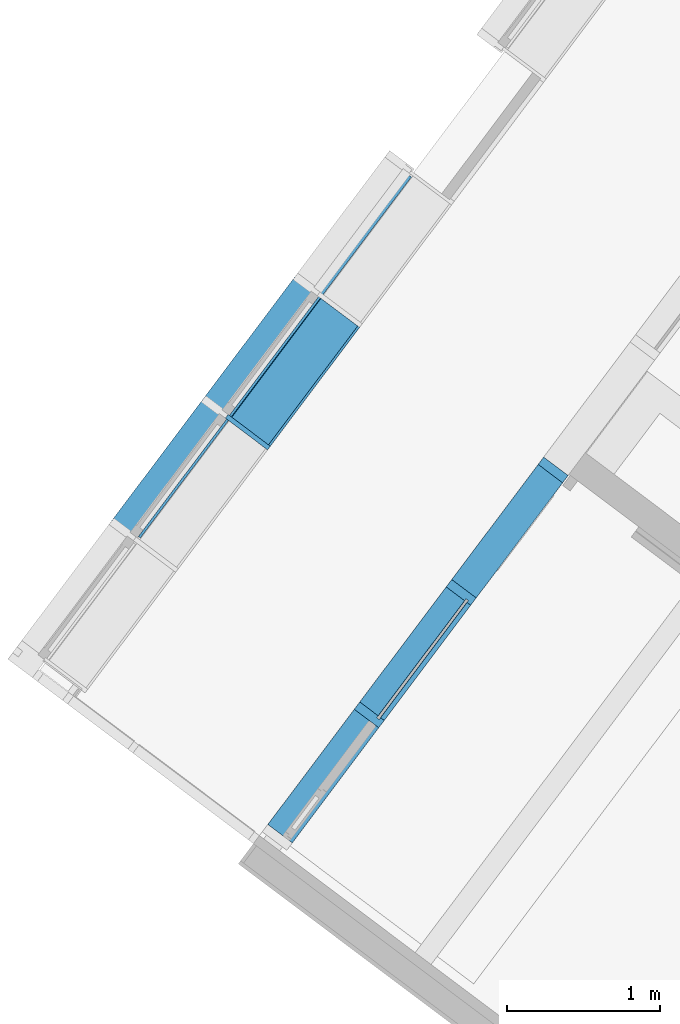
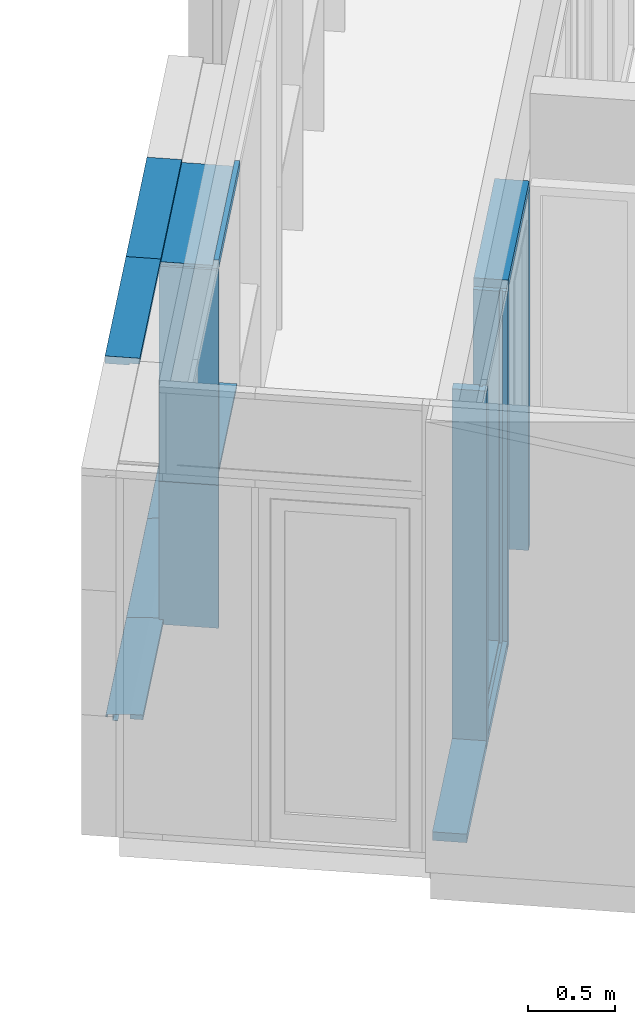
# One storey, part 4 of 243: 15 members, 3 elements without a shape of their own.
"""IFC2X3 building model written with IfcOpenShell, lengths in metres."""

from ifc_helpers import new_model, entity, si_unit, converted_unit, derived_unit, direction, frame, frame_2d, origin, place, context, subcontext, project, spatial, polyline, circle_curve, parameter, trimmed, segment, composite_curve, rectangle, outline, extrude, source, transform, mapped, material, type_object, type_shapes, element, aggregate, save


model = new_model("IFC2X3")

# Units and contexts
model_context = context("Model", 3, precision=1e-05, world=origin(), true_north=direction((6.123031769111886e-17, 1.0)))
body_context = subcontext(model_context, "Body", "Model", "MODEL_VIEW")
ifc_project = project(units=[si_unit("LENGTHUNIT", "METRE"), si_unit("AREAUNIT", "SQUARE_METRE"), si_unit("VOLUMEUNIT", "CUBIC_METRE"), converted_unit("PLANEANGLEUNIT", "DEGREE", entity("IfcRatioMeasure", 0.017453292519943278), si_unit("PLANEANGLEUNIT", "RADIAN"), dimensions=[0, 0, 0, 0, 0, 0, 0]), si_unit("MASSUNIT", "GRAM", prefix="KILO"), derived_unit("MASSDENSITYUNIT", [(si_unit("MASSUNIT", "GRAM", prefix="KILO"), 1), (si_unit("LENGTHUNIT", "METRE"), -3)]), derived_unit("IONCONCENTRATIONUNIT", [(si_unit("MASSUNIT", "GRAM", prefix="KILO"), 1), (si_unit("LENGTHUNIT", "METRE"), -3)]), derived_unit("MOMENTOFINERTIAUNIT", [(si_unit("LENGTHUNIT", "METRE"), 4)]), si_unit("TIMEUNIT", "SECOND"), si_unit("FREQUENCYUNIT", "HERTZ"), si_unit("THERMODYNAMICTEMPERATUREUNIT", "DEGREE_CELSIUS"), derived_unit("THERMALTRANSMITTANCEUNIT", [(si_unit("MASSUNIT", "GRAM", prefix="KILO"), 1), (si_unit("THERMODYNAMICTEMPERATUREUNIT", "KELVIN"), -1), (si_unit("TIMEUNIT", "SECOND"), -3)]), derived_unit("THERMALCONDUCTANCEUNIT", [(si_unit("MASSUNIT", "GRAM", prefix="KILO"), 1), (si_unit("THERMODYNAMICTEMPERATUREUNIT", "KELVIN"), -1), (si_unit("TIMEUNIT", "SECOND"), -3), (si_unit("LENGTHUNIT", "METRE"), 1)]), derived_unit("VOLUMETRICFLOWRATEUNIT", [(si_unit("LENGTHUNIT", "METRE"), 3), (si_unit("TIMEUNIT", "SECOND"), -1)]), derived_unit("MASSFLOWRATEUNIT", [(si_unit("MASSUNIT", "GRAM", prefix="KILO"), 1), (si_unit("TIMEUNIT", "SECOND"), -1)]), derived_unit("ROTATIONALFREQUENCYUNIT", [(si_unit("TIMEUNIT", "SECOND"), -1)]), si_unit("ELECTRICCURRENTUNIT", "AMPERE"), si_unit("ELECTRICVOLTAGEUNIT", "VOLT"), si_unit("POWERUNIT", "WATT"), si_unit("FORCEUNIT", "NEWTON", prefix="KILO"), si_unit("ILLUMINANCEUNIT", "LUX"), si_unit("LUMINOUSFLUXUNIT", "LUMEN"), si_unit("LUMINOUSINTENSITYUNIT", "CANDELA"), derived_unit("USERDEFINED", [(si_unit("MASSUNIT", "GRAM", prefix="KILO"), -1), (si_unit("LENGTHUNIT", "METRE"), -2), (si_unit("TIMEUNIT", "SECOND"), 3), (si_unit("LUMINOUSFLUXUNIT", "LUMEN"), 1)]), derived_unit("USERDEFINED", [(si_unit("MASSUNIT", "GRAM", prefix="KILO"), 1), (si_unit("TIMEUNIT", "SECOND"), -3), (si_unit("LENGTHUNIT", "METRE"), 3), (si_unit("ELECTRICCURRENTUNIT", "AMPERE"), -2)]), derived_unit("SOUNDPOWERUNIT", [(si_unit("MASSUNIT", "GRAM", prefix="KILO"), 1), (si_unit("TIMEUNIT", "SECOND"), -3), (si_unit("LENGTHUNIT", "METRE"), 2)]), derived_unit("SOUNDPRESSUREUNIT", [(si_unit("MASSUNIT", "GRAM", prefix="KILO"), 1), (si_unit("LENGTHUNIT", "METRE"), -1), (si_unit("TIMEUNIT", "SECOND"), -2)]), derived_unit("LINEARVELOCITYUNIT", [(si_unit("LENGTHUNIT", "METRE"), 1), (si_unit("TIMEUNIT", "SECOND"), -1)]), si_unit("PRESSUREUNIT", "PASCAL"), derived_unit("USERDEFINED", [(si_unit("MASSUNIT", "GRAM", prefix="KILO"), 1), (si_unit("LENGTHUNIT", "METRE"), -2), (si_unit("TIMEUNIT", "SECOND"), -2)]), derived_unit("LINEARFORCEUNIT", [(si_unit("MASSUNIT", "GRAM", prefix="KILO"), 1), (si_unit("TIMEUNIT", "SECOND"), -2)]), derived_unit("PLANARFORCEUNIT", [(si_unit("MASSUNIT", "GRAM", prefix="KILO"), 1), (si_unit("LENGTHUNIT", "METRE"), -1), (si_unit("TIMEUNIT", "SECOND"), -2)]), derived_unit("SPECIFICHEATCAPACITYUNIT", [(si_unit("THERMODYNAMICTEMPERATUREUNIT", "KELVIN"), -1), (si_unit("LENGTHUNIT", "METRE"), 2), (si_unit("TIMEUNIT", "SECOND"), -2)]), derived_unit("HEATINGVALUEUNIT", [(si_unit("LENGTHUNIT", "METRE"), 2), (si_unit("TIMEUNIT", "SECOND"), -2)]), derived_unit("VAPORPERMEABILITYUNIT", [(si_unit("LENGTHUNIT", "METRE"), -1), (si_unit("TIMEUNIT", "SECOND"), 1)]), derived_unit("DYNAMICVISCOSITYUNIT", [(si_unit("MASSUNIT", "GRAM", prefix="KILO"), 1), (si_unit("TIMEUNIT", "SECOND"), -1), (si_unit("LENGTHUNIT", "METRE"), -1)]), derived_unit("THERMALEXPANSIONCOEFFICIENTUNIT", [(si_unit("THERMODYNAMICTEMPERATUREUNIT", "KELVIN"), -1)]), derived_unit("MODULUSOFELASTICITYUNIT", [(si_unit("MASSUNIT", "GRAM", prefix="KILO"), 1), (si_unit("LENGTHUNIT", "METRE"), -1), (si_unit("TIMEUNIT", "SECOND"), -2)]), derived_unit("ISOTHERMALMOISTURECAPACITYUNIT", [(si_unit("LENGTHUNIT", "METRE"), 3), (si_unit("MASSUNIT", "GRAM", prefix="KILO"), -1)]), derived_unit("MOISTUREDIFFUSIVITYUNIT", [(si_unit("TIMEUNIT", "SECOND"), -1), (si_unit("LENGTHUNIT", "METRE"), 2)])], contexts=[model_context])

# Site, building, storey
site_placement = place(None, frame((0.0, 0.0, 235.0), z_axis=(0.0, 0.0, 1.0), x_axis=(-0.7996477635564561, 0.6004693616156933, 0.0)))
site = spatial("IfcSite", under=ifc_project, at=site_placement, Name="Default", CompositionType="ELEMENT")
building_placement = place(site_placement, origin())
building = spatial("IfcBuilding", under=site, at=building_placement, CompositionType="ELEMENT")
storey_placement = place(building_placement, origin())
storey = spatial("IfcBuildingStorey", under=building, at=storey_placement, Name="P0- Escola", CompositionType="ELEMENT", Elevation=0.0)

# Curtain wall, members
curtain_wall_type_1 = type_object("IfcCurtainWallType", Name="Muro cortina:MC- INT- a1", PredefinedType="NOTDEFINED")
curtain_wall_1_placement = place(storey_placement, origin())
curtain_wall_1 = element("IfcCurtainWall", 1, at=curtain_wall_1_placement, inside=storey, type_object=curtain_wall_type_1, Name="Muro cortina:MC- INT- a1", ObjectType="Muro cortina:MC- INT- a1")
ifc_material_1 = material(Name="_Fusta massisa- T1")
member_type_1 = type_object("IfcMemberType", Name="Montante rectangular:MC- Fusta- 20x6 cm- Esquerra", PredefinedType="MULLION", material=ifc_material_1)
shared_shape_1 = source(origin(), body_context, "Body", "SweptSolid", [
    extrude(outline(polyline([(-0.07000000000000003, -0.01875000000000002), (-0.04000000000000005, -0.01875000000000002), (-0.04000000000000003, -0.0037500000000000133), (-0.020000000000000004, -0.0037500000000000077), (-0.02, -0.018750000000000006), (0.13, -0.018749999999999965), (0.12999999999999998, 0.04125000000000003), (-0.06999999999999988, 0.04124999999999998), (-0.07000000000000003, -0.01875000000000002)])), frame((-0.01124999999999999, -0.03, -2.5050000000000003), z_axis=(0.0, 0.0, 1.0), x_axis=(0.0, -1.0, 0.0)), (0.0, 0.0, 1.0), 2.5050000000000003),
])
type_shapes(member_type_1, [shared_shape_1])
member_1_placement = place(curtain_wall_1_placement, frame((47.32014768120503, -22.41518997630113, 0.0), z_axis=(0.0, 0.0, -1.0), x_axis=(0.0, -1.0, 0.0)))
member_1 = element("IfcMember", 2, at=member_1_placement, type_object=member_type_1, material=ifc_material_1, Name="Montante rectangular:MC- Fusta- 20x6 cm- Esquerra", ObjectType="Montante rectangular:MC- Fusta- 20x6 cm- Esquerra", context=body_context, shape_type="MappedRepresentation", body=[
    mapped(shared_shape_1, transform((0.0, 0.0, 0.0), scale=1.0)),
])
member_type_2 = type_object("IfcMemberType", Name="Montante rectangular:MC- Fusta- 20x6 cm- Dreta", PredefinedType="MULLION", material=ifc_material_1)
shared_shape_2 = source(origin(), body_context, "Body", "SweptSolid", [
    extrude(outline(polyline([(-0.07000000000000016, -0.041249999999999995), (0.13000000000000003, -0.041249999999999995), (0.13000000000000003, 0.01875), (-0.019999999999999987, 0.01875), (-0.019999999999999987, 0.00375), (-0.04000000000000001, 0.00375), (-0.03999999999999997, 0.01875), (-0.06999999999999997, 0.01875), (-0.07000000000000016, -0.041249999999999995)])), frame((0.011250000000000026, -0.02999999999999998, -2.5050000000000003), z_axis=(0.0, 0.0, 1.0), x_axis=(0.0, -1.0, 0.0)), (0.0, 0.0, 1.0), 2.5050000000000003),
])
type_shapes(member_type_2, [shared_shape_2])
member_2_placement = place(curtain_wall_1_placement, frame((47.32014768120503, -21.415189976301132, 0.0), z_axis=(0.0, 0.0, -1.0), x_axis=(0.0, -1.0, 0.0)))
member_2 = element("IfcMember", 3, at=member_2_placement, type_object=member_type_2, material=ifc_material_1, Name="Montante rectangular:MC- Fusta- 20x6 cm- Dreta", ObjectType="Montante rectangular:MC- Fusta- 20x6 cm- Dreta", context=body_context, shape_type="MappedRepresentation", body=[
    mapped(shared_shape_2, transform((0.0, 0.0, 0.0), scale=1.0)),
])
member_type_3 = type_object("IfcMemberType", Name="Montante rectangular:MC- Fusta- 20x6 cm- Neutre", PredefinedType="MULLION", material=ifc_material_1)
shared_shape_3 = source(origin(), body_context, "Body", "SweptSolid", [
    extrude(rectangle(XDim=0.2, YDim=0.060000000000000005, at=frame_2d((-4.85722573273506e-17, -3.469446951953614e-18), x_axis=(1.0, 0.0))), frame((-0.03, -0.060000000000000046, -1.0), z_axis=(0.0, 0.0, 1.0), x_axis=(0.0, -1.0, 0.0)), (0.0, 0.0, 1.0), 0.9999999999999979),
])
type_shapes(member_type_3, [shared_shape_3])
member_3_placement = place(curtain_wall_1_placement, frame((47.320147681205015, -23.415189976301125, 2.565), z_axis=(0.0, -1.0, 0.0), x_axis=(0.0, 0.0, 1.0)))
member_3 = element("IfcMember", 4, at=member_3_placement, type_object=member_type_3, material=ifc_material_1, Name="Montante rectangular:MC- Fusta- 20x6 cm- Neutre", ObjectType="Montante rectangular:MC- Fusta- 20x6 cm- Neutre", context=body_context, shape_type="MappedRepresentation", body=[
    mapped(shared_shape_3, transform((0.0, 0.0, 0.0), scale=1.0)),
])
member_type_4 = type_object("IfcMemberType", Name="Montante rectangular:MC- Fusta- 20x6 cm- Neutre", PredefinedType="MULLION", material=ifc_material_1)
shared_shape_4 = source(origin(), body_context, "Body", "SweptSolid", [
    extrude(rectangle(XDim=0.2, YDim=0.06, at=frame_2d((-4.85722573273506e-17, 0.0), x_axis=(1.0, 0.0))), frame((0.0, -0.060000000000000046, -2.5050000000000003), z_axis=(0.0, 0.0, 1.0), x_axis=(0.0, -1.0, 0.0)), (0.0, 0.0, 1.0), 2.5050000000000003),
])
type_shapes(member_type_4, [shared_shape_4])
member_4_placement = place(curtain_wall_1_placement, frame((47.320147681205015, -23.415189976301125, 0.0), z_axis=(0.0, 0.0, -1.0), x_axis=(0.0, -1.0, 0.0)))
member_4 = element("IfcMember", 5, at=member_4_placement, type_object=member_type_4, material=ifc_material_1, Name="Montante rectangular:MC- Fusta- 20x6 cm- Neutre", ObjectType="Montante rectangular:MC- Fusta- 20x6 cm- Neutre", context=body_context, shape_type="MappedRepresentation", body=[
    mapped(shared_shape_4, transform((0.0, 0.0, 0.0), scale=1.0)),
])
member_type_5 = type_object("IfcMemberType", Name="Montante rectangular:MC- Fusta- 20x6 cm- Neutre", PredefinedType="MULLION", material=ifc_material_1)
shared_shape_5 = source(origin(), body_context, "Body", "SweptSolid", [
    extrude(rectangle(XDim=0.19999999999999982, YDim=0.06, at=frame_2d((5.551115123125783e-17, 0.0), x_axis=(1.0, 0.0))), frame((-0.03, -0.060000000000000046, -0.9399982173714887), z_axis=(0.0, 0.0, 1.0), x_axis=(0.0, -1.0, 0.0)), (0.0, 0.0, 1.0), 0.9399982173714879),
])
type_shapes(member_type_5, [shared_shape_5])
member_5_placement = place(curtain_wall_1_placement, frame((47.32014768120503, -20.445191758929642, 0.0), z_axis=(0.0, 1.0, 0.0), x_axis=(0.0, 0.0, -1.0)))
member_5 = element("IfcMember", 6, at=member_5_placement, type_object=member_type_5, material=ifc_material_1, Name="Montante rectangular:MC- Fusta- 20x6 cm- Neutre", ObjectType="Montante rectangular:MC- Fusta- 20x6 cm- Neutre", context=body_context, shape_type="MappedRepresentation", body=[
    mapped(shared_shape_5, transform((0.0, 0.0, 0.0), scale=1.0)),
])
member_type_6 = type_object("IfcMemberType", Name="Montante rectangular:MC- Fusta- 20x6 cm- Inferior", PredefinedType="MULLION", material=ifc_material_1)
shared_shape_6 = source(origin(), body_context, "Body", "SweptSolid", [
    extrude(outline(polyline([(-0.06999999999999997, -0.018750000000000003), (-0.039999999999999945, -0.018750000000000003), (-0.03999999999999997, -0.003750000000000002), (-0.019999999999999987, -0.0037500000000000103), (-0.019999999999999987, -0.018750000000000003), (0.13000000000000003, -0.018750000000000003), (0.13000000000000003, 0.041249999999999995), (-0.07000000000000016, 0.041249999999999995), (-0.06999999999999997, -0.018750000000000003)])), frame((-0.041249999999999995, -0.02999999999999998, -0.9399999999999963), z_axis=(0.0, 0.0, 1.0), x_axis=(0.0, -1.0, 0.0)), (0.0, 0.0, 1.0), 0.9399999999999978),
])
type_shapes(member_type_6, [shared_shape_6])
member_6_placement = place(curtain_wall_1_placement, frame((47.32014768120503, -21.445189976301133, 0.0), z_axis=(0.0, 1.0, 0.0), x_axis=(0.0, 0.0, -1.0)))
member_6 = element("IfcMember", 7, at=member_6_placement, type_object=member_type_6, material=ifc_material_1, Name="Montante rectangular:MC- Fusta- 20x6 cm- Inferior", ObjectType="Montante rectangular:MC- Fusta- 20x6 cm- Inferior", context=body_context, shape_type="MappedRepresentation", body=[
    mapped(shared_shape_6, transform((0.0, 0.0, 0.0), scale=1.0)),
])
aggregate(curtain_wall_1, [member_3, member_4, member_1, member_2, member_5, member_6])

curtain_wall_type_2 = type_object("IfcCurtainWallType", Name="Muro cortina:MC- INT- k2", PredefinedType="NOTDEFINED")
curtain_wall_2_placement = place(storey_placement, origin())
curtain_wall_2 = element("IfcCurtainWall", 8, at=curtain_wall_2_placement, inside=storey, type_object=curtain_wall_type_2, Name="Muro cortina:MC- INT- k2", ObjectType="Muro cortina:MC- INT- k2")
member_type_7 = type_object("IfcMemberType", Name="Montante rectangular:MC- Fusta- 35x3 cm- Centre", PredefinedType="MULLION", material=ifc_material_1)
shared_shape_7 = source(origin(), body_context, "Body", "SweptSolid", [
    extrude(rectangle(XDim=0.3450000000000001, YDim=0.030000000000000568, at=frame_2d((0.0, -1.3964523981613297e-16), x_axis=(1.0, 0.0))), frame((0.0, -0.07750000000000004, -1.0), z_axis=(0.0, 0.0, 1.0), x_axis=(0.0, -1.0, 0.0)), (0.0, 0.0, 1.0), 1.0),
])
type_shapes(member_type_7, [shared_shape_7])
member_7_placement = place(curtain_wall_2_placement, frame((49.045147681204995, -22.41519175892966, 0.0), z_axis=(0.0, 0.0, -1.0), x_axis=(0.0, -1.0, 0.0)))
member_7 = element("IfcMember", 9, at=member_7_placement, type_object=member_type_7, material=ifc_material_1, Name="Montante rectangular:MC- Fusta- 35x3 cm- Centre", ObjectType="Montante rectangular:MC- Fusta- 35x3 cm- Centre", context=body_context, shape_type="MappedRepresentation", body=[
    mapped(shared_shape_7, transform((0.0, 0.0, 0.0), scale=1.0)),
])
member_type_8 = type_object("IfcMemberType", Name="Montante rectangular:MC- Fusta- 35x3 cm- Pati aules- Remat superior", PredefinedType="MULLION", material=ifc_material_1)
shared_shape_8 = source(origin(), body_context, "Body", "SweptSolid", [
    extrude(outline(polyline([(-0.12166666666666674, -0.02666666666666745), (0.21333333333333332, -0.02666666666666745), (0.2133333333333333, -0.006666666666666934), (-0.09166666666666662, -0.006666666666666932), (-0.09166666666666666, 0.03333333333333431), (-0.12166666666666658, 0.03333333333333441), (-0.12166666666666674, -0.02666666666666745)])), frame((-0.033333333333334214, -0.026666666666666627, -1.0), z_axis=(0.0, 0.0, 1.0), x_axis=(0.0, -1.0, 0.0)), (0.0, 0.0, 1.0), 0.9999999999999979),
])
type_shapes(member_type_8, [shared_shape_8])
member_8_placement = place(curtain_wall_2_placement, frame((49.045147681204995, -23.415191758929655, 2.565), z_axis=(0.0, -1.0, 0.0), x_axis=(0.0, 0.0, 1.0)))
member_8 = element("IfcMember", 10, at=member_8_placement, type_object=member_type_8, material=ifc_material_1, Name="Montante rectangular:MC- Fusta- 35x3 cm- Pati aules- Remat superior", ObjectType="Montante rectangular:MC- Fusta- 35x3 cm- Pati aules- Remat superior", context=body_context, shape_type="MappedRepresentation", body=[
    mapped(shared_shape_8, transform((0.0, 0.0, 0.0), scale=1.0)),
])
member_type_9 = type_object("IfcMemberType", Name="Montante rectangular:MC- Fusta- 35x3 cm- Pati aules- Prestatge", PredefinedType="MULLION", material=ifc_material_1)
shared_shape_9 = source(origin(), body_context, "Body", "SweptSolid", [
    extrude(rectangle(XDim=0.30000000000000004, YDim=0.03000000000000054, at=frame_2d((0.0, -1.231653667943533e-16), x_axis=(1.0, 0.0))), frame((0.0, -0.07000000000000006, -0.9699999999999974), z_axis=(0.0, 0.0, 1.0), x_axis=(0.0, -1.0, 0.0)), (0.0, 0.0, 1.0), 0.969999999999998),
])
type_shapes(member_type_9, [shared_shape_9])
member_9_placement = place(curtain_wall_2_placement, frame((49.045147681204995, -23.400191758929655, 1.0), z_axis=(0.0, -1.0, 0.0), x_axis=(0.0, 0.0, 1.0)))
member_9 = element("IfcMember", 11, at=member_9_placement, type_object=member_type_9, material=ifc_material_1, Name="Montante rectangular:MC- Fusta- 35x3 cm- Pati aules- Prestatge", ObjectType="Montante rectangular:MC- Fusta- 35x3 cm- Pati aules- Prestatge", context=body_context, shape_type="MappedRepresentation", body=[
    mapped(shared_shape_9, transform((0.0, 0.0, 0.0), scale=1.0)),
])
member_type_10 = type_object("IfcMemberType", Name="Montante rectangular:MC- Fusta- 35x3 cm- Centre", PredefinedType="MULLION", material=ifc_material_1)
shared_shape_10 = source(origin(), body_context, "Body", "SweptSolid", [
    extrude(rectangle(XDim=0.3450000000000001, YDim=0.030000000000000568, at=frame_2d((0.0, -1.3964523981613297e-16), x_axis=(1.0, 0.0))), frame((0.0, -0.07750000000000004, -1.504999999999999), z_axis=(0.0, 0.0, 1.0), x_axis=(0.0, -1.0, 0.0)), (0.0, 0.0, 1.0), 1.504999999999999),
])
type_shapes(member_type_10, [shared_shape_10])
member_10_placement = place(curtain_wall_2_placement, frame((49.045147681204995, -22.41519175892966, 1.0), z_axis=(0.0, 0.0, -1.0), x_axis=(0.0, -1.0, 0.0)))
member_10 = element("IfcMember", 12, at=member_10_placement, type_object=member_type_10, material=ifc_material_1, Name="Montante rectangular:MC- Fusta- 35x3 cm- Centre", ObjectType="Montante rectangular:MC- Fusta- 35x3 cm- Centre", context=body_context, shape_type="MappedRepresentation", body=[
    mapped(shared_shape_10, transform((0.0, 0.0, 0.0), scale=1.0)),
])
aggregate(curtain_wall_2, [member_7, member_8, member_9, member_10])

curtain_wall_type_3 = type_object("IfcCurtainWallType", Name="Muro cortina:MC- EXT- MC5", PredefinedType="NOTDEFINED")
curtain_wall_3_placement = place(storey_placement, origin())
curtain_wall_3 = element("IfcCurtainWall", 13, at=curtain_wall_3_placement, inside=storey, type_object=curtain_wall_type_3, Name="Muro cortina:MC- EXT- MC5", ObjectType="Muro cortina:MC- EXT- MC5")
ifc_material_2 = material(Name="_Alumini- T1- Perfil")
member_type_11 = type_object("IfcMemberType", Name="Montante rectangular:MC- Alu- 140x52,5 cm- Fa patis- inferior", PredefinedType="MULLION", material=ifc_material_2)
shared_shape_11 = source(origin(), body_context, "Body", "SweptSolid", [
    extrude(outline(composite_curve([segment(polyline([(-0.144167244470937, -0.025867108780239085), (-0.12786724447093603, -0.02586710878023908)]), True, "CONTINUOUS"), segment(polyline([(-0.12786724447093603, -0.02586710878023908), (-0.12786724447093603, -0.023167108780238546)]), True, "CONTINUOUS"), segment(polyline([(-0.12786724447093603, -0.023167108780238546), (-0.0678672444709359, -0.023167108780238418)]), True, "CONTINUOUS"), segment(polyline([(-0.0678672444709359, -0.023167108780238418), (0.07031215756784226, -0.010722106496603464)]), True, "CONTINUOUS"), segment(trimmed(circle_curve(frame_2d((0.07013275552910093, -0.008730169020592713), x_axis=(0.0897010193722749, -0.9959687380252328)), 0.0019999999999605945), [parameter(0.0)], [parameter(84.8535928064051)], True, "PARAMETER"), True, "CONTINUOUS"), segment(polyline([(0.07213275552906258, -0.008730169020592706), (0.07213275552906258, 0.006266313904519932)]), True, "CONTINUOUS"), segment(trimmed(circle_curve(frame_2d((0.07013275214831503, 0.006266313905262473), x_axis=(1.0, 0.0)), 0.0020000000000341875), [parameter(0.0)], [parameter(90.00000002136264)], True, "PARAMETER"), True, "CONTINUOUS"), segment(polyline([(0.070132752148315, 0.008266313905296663), (0.06213275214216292, 0.008266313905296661)]), True, "CONTINUOUS"), segment(polyline([(0.06213275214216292, 0.008266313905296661), (0.06213275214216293, 0.006266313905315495)]), True, "CONTINUOUS"), segment(polyline([(0.06213275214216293, 0.006266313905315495), (0.06963275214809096, 0.006266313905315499)]), True, "CONTINUOUS"), segment(trimmed(circle_curve(frame_2d((0.06963275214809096, 0.005766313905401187), x_axis=(0.0, 1.0)), 0.0004999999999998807), [parameter(269.9999999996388)], [parameter(0.0)], True, "PARAMETER"), False, "CONTINUOUS"), segment(polyline([(0.07013275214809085, 0.005766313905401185), (0.07013275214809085, -0.008730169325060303)]), True, "CONTINUOUS"), segment(polyline([(0.07013275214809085, -0.008730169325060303), (0.03213275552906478, -0.012152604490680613)]), True, "CONTINUOUS"), segment(polyline([(0.03213275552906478, -0.0121526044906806), (0.03213275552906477, 0.029132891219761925)]), True, "CONTINUOUS"), segment(polyline([(0.03213275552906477, 0.029132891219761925), (0.0021327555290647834, 0.029132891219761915)]), True, "CONTINUOUS"), segment(polyline([(0.0021327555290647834, 0.029132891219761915), (0.0021327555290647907, 0.02713289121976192)]), True, "CONTINUOUS"), segment(polyline([(0.0021327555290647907, 0.02713289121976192), (0.03013275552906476, 0.02713289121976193)]), True, "CONTINUOUS"), segment(polyline([(0.03013275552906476, 0.027132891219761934), (0.03013275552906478, -0.012332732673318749)]), True, "CONTINUOUS"), segment(polyline([(0.03013275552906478, -0.012332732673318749), (-0.06786724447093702, -0.021159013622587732)]), True, "CONTINUOUS"), segment(polyline([(-0.06786724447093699, -0.02115901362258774), (-0.067867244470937, 0.009132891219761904)]), True, "CONTINUOUS"), segment(polyline([(-0.06786724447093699, 0.009132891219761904), (-0.14416724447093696, 0.009132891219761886)]), True, "CONTINUOUS"), segment(polyline([(-0.14416724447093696, 0.009132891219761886), (-0.144167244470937, -0.025867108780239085)]), True, "CONTINUOUS")], self_intersect=False)), frame((-0.029132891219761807, -0.06786724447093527, -0.9737499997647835), z_axis=(0.0, 0.0, 1.0), x_axis=(0.0, -1.0, 0.0)), (0.0, 0.0, 1.0), 0.9737499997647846),
])
type_shapes(member_type_11, [shared_shape_11])
member_11_placement = place(curtain_wall_3_placement, frame((49.3451476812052, -21.441441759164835, -0.02), z_axis=(0.0, 1.0, 0.0), x_axis=(0.0, 0.0, -1.0)))
member_11 = element("IfcMember", 14, at=member_11_placement, type_object=member_type_11, material=ifc_material_2, Name="Montante rectangular:MC- Alu- 140x52,5 cm- Fa patis- inferior", ObjectType="Montante rectangular:MC- Alu- 140x52,5 cm- Fa patis- inferior", context=body_context, shape_type="MappedRepresentation", body=[
    mapped(shared_shape_11, transform((0.0, 0.0, 0.0), scale=1.0)),
])
member_type_12 = type_object("IfcMemberType", Name="Montante rectangular:MC- Alu- 140x52,5 cm- Fa patis- Superior", PredefinedType="MULLION", material=ifc_material_2)
shared_shape_12 = source(origin(), body_context, "Body", "SweptSolid", [
    extrude(outline(polyline([(-0.026333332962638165, -0.021249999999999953), (0.11366666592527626, -0.021249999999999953), (0.11366666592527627, 0.031250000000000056), (-0.08733333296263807, 0.03125000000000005), (-0.0873333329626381, -0.010000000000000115), (-0.026333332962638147, -0.010000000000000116), (-0.026333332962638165, -0.021249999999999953)])), frame((-0.031250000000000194, -0.02733333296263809, -1.0), z_axis=(0.0, 0.0, 1.0), x_axis=(0.0, -1.0, 0.0)), (0.0, 0.0, 1.0), 1.0000000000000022),
])
type_shapes(member_type_12, [shared_shape_12])
member_12_placement = place(curtain_wall_3_placement, frame((49.3451476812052, -22.41519175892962, 2.545), z_axis=(0.0, -1.0, 0.0), x_axis=(0.0, 0.0, 1.0)))
member_12 = element("IfcMember", 15, at=member_12_placement, type_object=member_type_12, material=ifc_material_2, Name="Montante rectangular:MC- Alu- 140x52,5 cm- Fa patis- Superior", ObjectType="Montante rectangular:MC- Alu- 140x52,5 cm- Fa patis- Superior", context=body_context, shape_type="MappedRepresentation", body=[
    mapped(shared_shape_12, transform((0.0, 0.0, 0.0), scale=1.0)),
])
member_13_placement = place(curtain_wall_3_placement, frame((49.345147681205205, -23.415191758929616, 2.545), z_axis=(0.0, -1.0, 0.0), x_axis=(0.0, 0.0, 1.0)))
member_13 = element("IfcMember", 16, at=member_13_placement, type_object=member_type_12, material=ifc_material_2, Name="Montante rectangular:MC- Alu- 140x52,5 cm- Fa patis- Superior", ObjectType="Montante rectangular:MC- Alu- 140x52,5 cm- Fa patis- Superior", context=body_context, shape_type="MappedRepresentation", body=[
    mapped(shared_shape_12, transform((0.0, 0.0, 0.0), scale=1.0)),
])
member_type_13 = type_object("IfcMemberType", Name="Montante rectangular:MC- Alu- 140x52,5 cm- Fa patis- inferior", PredefinedType="MULLION", material=ifc_material_2)
shared_shape_13 = source(origin(), body_context, "Body", "SweptSolid", [
    extrude(outline(composite_curve([segment(polyline([(-0.144167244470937, -0.02586710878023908), (-0.12786724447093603, -0.025867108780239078)]), True, "CONTINUOUS"), segment(polyline([(-0.12786724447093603, -0.025867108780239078), (-0.12786724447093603, -0.023167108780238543)]), True, "CONTINUOUS"), segment(polyline([(-0.12786724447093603, -0.023167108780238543), (-0.0678672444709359, -0.023167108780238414)]), True, "CONTINUOUS"), segment(polyline([(-0.0678672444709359, -0.023167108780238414), (0.07031215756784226, -0.01072210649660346)]), True, "CONTINUOUS"), segment(trimmed(circle_curve(frame_2d((0.07013275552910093, -0.00873016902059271), x_axis=(0.0897010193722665, -0.9959687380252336)), 0.0019999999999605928), [parameter(0.0)], [parameter(84.85359280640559)], True, "PARAMETER"), True, "CONTINUOUS"), segment(polyline([(0.07213275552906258, -0.008730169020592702), (0.07213275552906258, 0.006266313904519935)]), True, "CONTINUOUS"), segment(trimmed(circle_curve(frame_2d((0.070132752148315, 0.0062663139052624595), x_axis=(1.0, 0.0)), 0.0020000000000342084), [parameter(0.0)], [parameter(90.00000002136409)], True, "PARAMETER"), True, "CONTINUOUS"), segment(polyline([(0.070132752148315, 0.008266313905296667), (0.06213275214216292, 0.008266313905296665)]), True, "CONTINUOUS"), segment(polyline([(0.06213275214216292, 0.008266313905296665), (0.06213275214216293, 0.006266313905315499)]), True, "CONTINUOUS"), segment(polyline([(0.06213275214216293, 0.006266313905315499), (0.06963275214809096, 0.006266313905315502)]), True, "CONTINUOUS"), segment(trimmed(circle_curve(frame_2d((0.06963275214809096, 0.005766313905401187), x_axis=(0.0, 1.0)), 0.000499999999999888), [parameter(269.9999999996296)], [parameter(0.0)], True, "PARAMETER"), False, "CONTINUOUS"), segment(polyline([(0.07013275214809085, 0.005766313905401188), (0.07013275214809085, -0.0087301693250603)]), True, "CONTINUOUS"), segment(polyline([(0.07013275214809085, -0.0087301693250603), (0.03213275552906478, -0.01215260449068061)]), True, "CONTINUOUS"), segment(polyline([(0.03213275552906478, -0.012152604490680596), (0.03213275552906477, 0.02913289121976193)]), True, "CONTINUOUS"), segment(polyline([(0.03213275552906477, 0.02913289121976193), (0.0021327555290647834, 0.029132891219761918)]), True, "CONTINUOUS"), segment(polyline([(0.0021327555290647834, 0.029132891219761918), (0.0021327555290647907, 0.027132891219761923)]), True, "CONTINUOUS"), segment(polyline([(0.0021327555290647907, 0.027132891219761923), (0.03013275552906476, 0.027132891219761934)]), True, "CONTINUOUS"), segment(polyline([(0.03013275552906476, 0.027132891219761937), (0.03013275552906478, -0.012332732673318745)]), True, "CONTINUOUS"), segment(polyline([(0.03013275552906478, -0.012332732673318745), (-0.06786724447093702, -0.02115901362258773)]), True, "CONTINUOUS"), segment(polyline([(-0.06786724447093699, -0.021159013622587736), (-0.067867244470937, 0.009132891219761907)]), True, "CONTINUOUS"), segment(polyline([(-0.06786724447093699, 0.009132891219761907), (-0.14416724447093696, 0.00913289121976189)]), True, "CONTINUOUS"), segment(polyline([(-0.14416724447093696, 0.00913289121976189), (-0.144167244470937, -0.02586710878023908)]), True, "CONTINUOUS")], self_intersect=False)), frame((-0.02913289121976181, -0.06786724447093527, -1.0), z_axis=(0.0, 0.0, 1.0), x_axis=(0.0, -1.0, 0.0)), (0.0, 0.0, 1.0), 0.9999999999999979),
])
type_shapes(member_type_13, [shared_shape_13])
member_14_placement = place(curtain_wall_3_placement, frame((49.3451476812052, -22.41519175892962, -0.02), z_axis=(0.0, 1.0, 0.0), x_axis=(0.0, 0.0, -1.0)))
member_14 = element("IfcMember", 17, at=member_14_placement, type_object=member_type_13, material=ifc_material_2, Name="Montante rectangular:MC- Alu- 140x52,5 cm- Fa patis- inferior", ObjectType="Montante rectangular:MC- Alu- 140x52,5 cm- Fa patis- inferior", context=body_context, shape_type="MappedRepresentation", body=[
    mapped(shared_shape_13, transform((0.0, 0.0, 0.0), scale=1.0)),
])
member_type_14 = type_object("IfcMemberType", Name="Montante rectangular:MC- Alu- 140x52,5 cm- Fa patis- inferior", PredefinedType="MULLION", material=ifc_material_2)
shared_shape_14 = source(origin(), body_context, "Body", "SweptSolid", [
    extrude(outline(composite_curve([segment(polyline([(-0.144167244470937, -0.025867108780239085), (-0.12786724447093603, -0.02586710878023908)]), True, "CONTINUOUS"), segment(polyline([(-0.12786724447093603, -0.02586710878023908), (-0.12786724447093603, -0.023167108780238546)]), True, "CONTINUOUS"), segment(polyline([(-0.12786724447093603, -0.023167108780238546), (-0.0678672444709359, -0.023167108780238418)]), True, "CONTINUOUS"), segment(polyline([(-0.0678672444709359, -0.023167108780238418), (0.07031215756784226, -0.010722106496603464)]), True, "CONTINUOUS"), segment(trimmed(circle_curve(frame_2d((0.07013275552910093, -0.008730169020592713), x_axis=(0.0897010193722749, -0.9959687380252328)), 0.0019999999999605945), [parameter(0.0)], [parameter(84.8535928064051)], True, "PARAMETER"), True, "CONTINUOUS"), segment(polyline([(0.07213275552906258, -0.008730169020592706), (0.07213275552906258, 0.006266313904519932)]), True, "CONTINUOUS"), segment(trimmed(circle_curve(frame_2d((0.07013275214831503, 0.006266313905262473), x_axis=(1.0, 0.0)), 0.0020000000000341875), [parameter(0.0)], [parameter(90.00000002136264)], True, "PARAMETER"), True, "CONTINUOUS"), segment(polyline([(0.070132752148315, 0.008266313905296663), (0.06213275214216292, 0.008266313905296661)]), True, "CONTINUOUS"), segment(polyline([(0.06213275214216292, 0.008266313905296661), (0.06213275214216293, 0.006266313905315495)]), True, "CONTINUOUS"), segment(polyline([(0.06213275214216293, 0.006266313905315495), (0.06963275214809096, 0.006266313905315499)]), True, "CONTINUOUS"), segment(trimmed(circle_curve(frame_2d((0.06963275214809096, 0.005766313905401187), x_axis=(0.0, 1.0)), 0.0004999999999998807), [parameter(269.9999999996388)], [parameter(0.0)], True, "PARAMETER"), False, "CONTINUOUS"), segment(polyline([(0.07013275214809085, 0.005766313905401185), (0.07013275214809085, -0.008730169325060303)]), True, "CONTINUOUS"), segment(polyline([(0.07013275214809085, -0.008730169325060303), (0.03213275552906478, -0.012152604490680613)]), True, "CONTINUOUS"), segment(polyline([(0.03213275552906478, -0.0121526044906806), (0.03213275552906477, 0.029132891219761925)]), True, "CONTINUOUS"), segment(polyline([(0.03213275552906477, 0.029132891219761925), (0.0021327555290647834, 0.029132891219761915)]), True, "CONTINUOUS"), segment(polyline([(0.0021327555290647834, 0.029132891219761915), (0.0021327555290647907, 0.02713289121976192)]), True, "CONTINUOUS"), segment(polyline([(0.0021327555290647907, 0.02713289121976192), (0.03013275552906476, 0.02713289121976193)]), True, "CONTINUOUS"), segment(polyline([(0.03013275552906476, 0.027132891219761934), (0.03013275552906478, -0.012332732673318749)]), True, "CONTINUOUS"), segment(polyline([(0.03013275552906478, -0.012332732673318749), (-0.06786724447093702, -0.021159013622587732)]), True, "CONTINUOUS"), segment(polyline([(-0.06786724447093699, -0.02115901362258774), (-0.067867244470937, 0.009132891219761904)]), True, "CONTINUOUS"), segment(polyline([(-0.06786724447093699, 0.009132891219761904), (-0.14416724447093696, 0.009132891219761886)]), True, "CONTINUOUS"), segment(polyline([(-0.14416724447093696, 0.009132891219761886), (-0.144167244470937, -0.025867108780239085)]), True, "CONTINUOUS")], self_intersect=False)), frame((-0.029132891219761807, -0.06786724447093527, -0.9737499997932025), z_axis=(0.0, 0.0, 1.0), x_axis=(0.0, -1.0, 0.0)), (0.0, 0.0, 1.0), 0.9737499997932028),
])
type_shapes(member_type_14, [shared_shape_14])
member_15_placement = place(curtain_wall_3_placement, frame((49.345147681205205, -23.415191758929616, -0.02), z_axis=(0.0, 1.0, 0.0), x_axis=(0.0, 0.0, -1.0)))
member_15 = element("IfcMember", 18, at=member_15_placement, type_object=member_type_14, material=ifc_material_2, Name="Montante rectangular:MC- Alu- 140x52,5 cm- Fa patis- inferior", ObjectType="Montante rectangular:MC- Alu- 140x52,5 cm- Fa patis- inferior", context=body_context, shape_type="MappedRepresentation", body=[
    mapped(shared_shape_14, transform((0.0, 0.0, 0.0), scale=1.0)),
])
aggregate(curtain_wall_3, [member_11, member_12, member_14, member_13, member_15])

save(model, "model.ifc")
